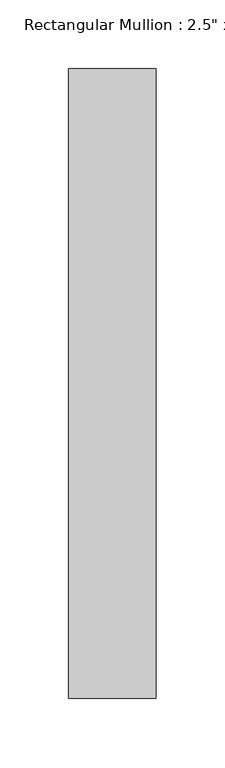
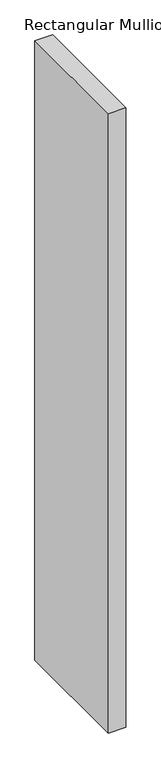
"""IFC4 building model written with IfcOpenShell, lengths in millimetres: member geometry."""

from ifc_helpers import new_model, si_unit, frame, origin, place, context, project, spatial, polyline, outline, extrude, source, transform, mapped, element, save


def member_a26b4311(model_context):
    return source(origin(), model_context, "Body", "SweptSolid", [
        extrude(outline(polyline([(31.75, 25.4), (31.75, -431.8), (-31.75, -431.8), (-31.75, 25.4), (31.75, 25.4)])), frame((0.0, 0.0, -2354.6578676), z_axis=(0.0, 0.0, 1.0), x_axis=(1.0, 0.0, 0.0)), (0.0, 0.0, 1.0), 2354.6578676),
    ])


if __name__ == "__main__":
    model = new_model("IFC4")
    model_context = context("Model", 3, world=origin())
    ifc_project = project(units=[si_unit("LENGTHUNIT", "METRE", prefix="MILLI")], contexts=[model_context])
    site = spatial("IfcSite", under=ifc_project)
    building = spatial("IfcBuilding", under=site)
    placement = place(None, origin())
    member_shape = member_a26b4311(model_context)
    element("IfcMember", 1, ObjectType="Rectangular Mullion : 2.5\" x 18\" rectangular", at=placement, inside=building, context=model_context, shape_type="MappedRepresentation", body=[
        mapped(member_shape, transform((0.0, 0.0, 0.0), x_axis=(1.0, 0.0, 0.0), y_axis=(0.0, 1.0, 0.0), z_axis=(0.0, 0.0, 1.0))),
    ])
    save(model, "model.ifc")
